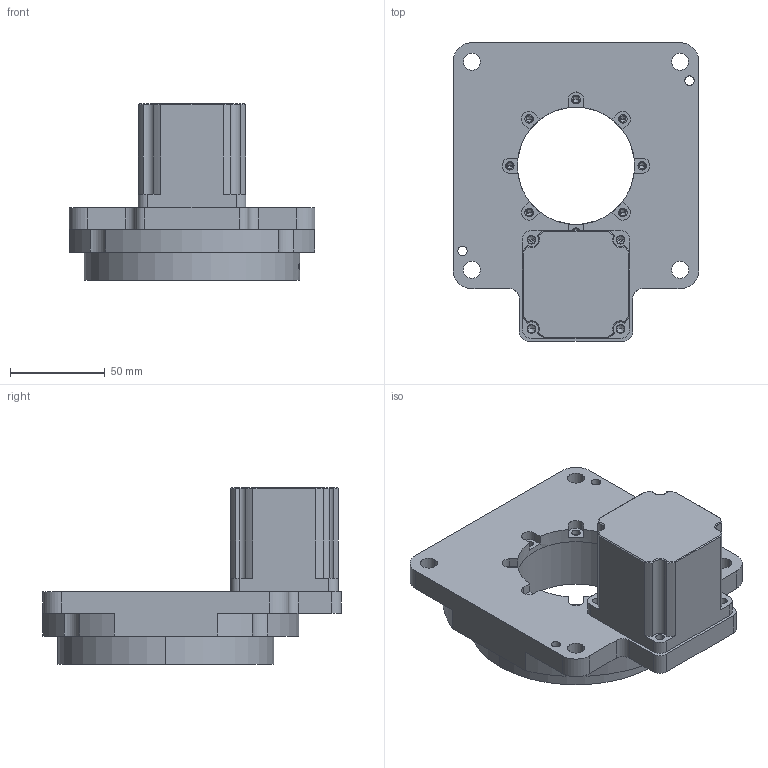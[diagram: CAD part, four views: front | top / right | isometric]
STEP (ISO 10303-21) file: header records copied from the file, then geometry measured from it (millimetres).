
FILE_DESCRIPTION (( 'STEP AP203' ), '1' );
FILE_NAME ('DG130.STEP', '2017-10-14T14:28:28', ( 'SkyUser' ), ( 'ITianKong.Com' ), 'SwSTEP 2.0', 'SolidWorks 2013', '' );
FILE_SCHEMA (( 'CONFIG_CONTROL_DESIGN' ));
Length unit declared in the file: millimetre
Products named in the file (1): DG130
Bounding box: 130 x 157.7 x 93.5 mm (x, y, z)
Volume: 518433.6 mm3; surface area: 118762 mm2
Topology: 4 solids, 4 shells, 334 faces, 861 edges, 524 vertices
Faces by surface type: cylinder 176, plane 78, cone 76, bspline 4
Entity records: 11999 total; most frequent: CARTESIAN_POINT 3673, DIRECTION 1849, ORIENTED_EDGE 1626, EDGE_CURVE 813, AXIS2_PLACEMENT_3D 741, VERTEX_POINT 524, EDGE_LOOP 419, CIRCLE 410
